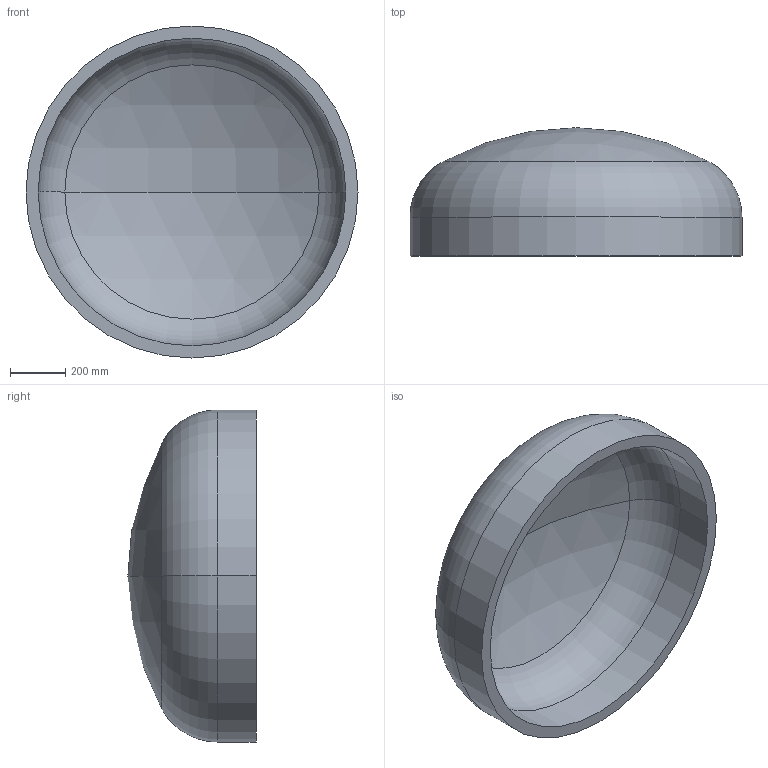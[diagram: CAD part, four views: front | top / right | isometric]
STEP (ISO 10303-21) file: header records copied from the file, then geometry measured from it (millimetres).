
FILE_DESCRIPTION (( 'STEP AP203' ), '1' );
FILE_NAME ('DIN 28013 Korbbogenform_-_Boden DIN 28013 - 1200 x 140 - I - s=44.step', '2016-07-01T09:29:29', ( '' ), ( '' ), 'SwSTEP 2.0', 'SolidWorks 2013', '' );
FILE_SCHEMA (( 'CONFIG_CONTROL_DESIGN' ));
Length unit declared in the file: millimetre
Products named in the file (1): DIN 28013 Korbbogenform_-_Boden DIN 28013 - 1200 x 140 - I - s=44
Bounding box: 1200 x 463.57 x 1200 mm (x, y, z)
Volume: 88099944 mm3; surface area: 4168390.6 mm2
Topology: 1 solids, 1 shells, 13 faces, 24 edges, 14 vertices
Faces by surface type: torus 4, cylinder 4, sphere 4, plane 1
Entity records: 407 total; most frequent: DIRECTION 72, CARTESIAN_POINT 52, ORIENTED_EDGE 48, AXIS2_PLACEMENT_3D 34, EDGE_CURVE 24, CIRCLE 20, VERTEX_POINT 14, EDGE_LOOP 14
